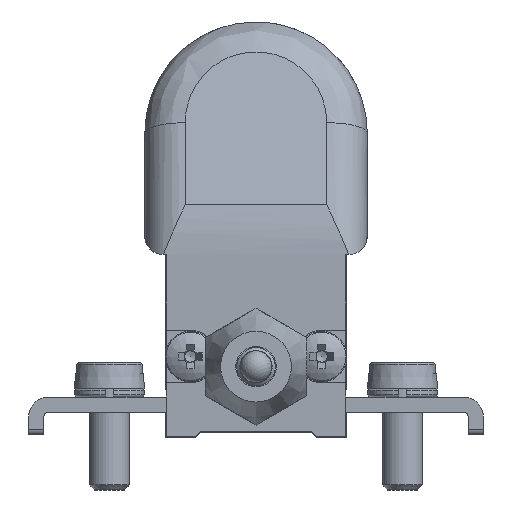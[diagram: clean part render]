
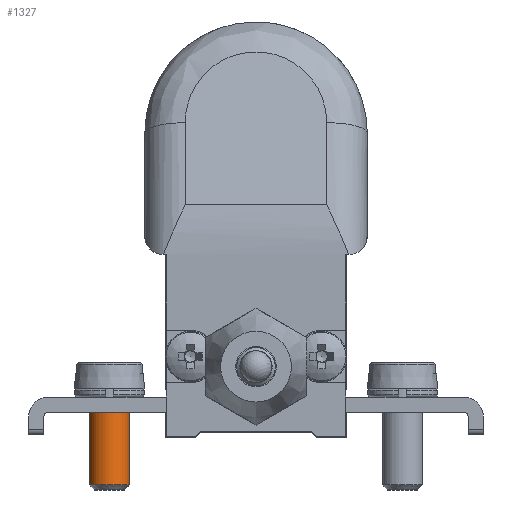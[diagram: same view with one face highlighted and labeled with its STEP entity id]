
A CAD part, front view. The second image highlights one B-rep face of the part: STEP entity #1327.
In plain terms, the highlighted cylindrical face has radius 2 mm (diameter 4 mm), a full revolution.
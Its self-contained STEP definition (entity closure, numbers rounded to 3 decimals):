
#1327 = ADVANCED_FACE( '', ( #2805, #2806 ), #2807, .T. );
#2805 = FACE_OUTER_BOUND( '', #5296, .T. );
#2806 = FACE_OUTER_BOUND( '', #5297, .T. );
#2807 = CYLINDRICAL_SURFACE( '', #5298, 2. );
#5296 = EDGE_LOOP( '', ( #9305 ) );
#5297 = EDGE_LOOP( '', ( #9306 ) );
#5298 = AXIS2_PLACEMENT_3D( '', #9307, #9308, #9309 );
#9305 = ORIENTED_EDGE( '', *, *, #10625, .T. );
#9306 = ORIENTED_EDGE( '', *, *, #10729, .T. );
#9307 = CARTESIAN_POINT( '', ( -14.5, 11., 32.8 ) );
#9308 = DIRECTION( '', ( 0., 0., -1. ) );
#9309 = DIRECTION( '', ( 1., 0., 0. ) );
#10625 = EDGE_CURVE( '', #13351, #13351, #13352, .F. );
#10729 = EDGE_CURVE( '', #13530, #13530, #13531, .T. );
#13351 = VERTEX_POINT( '', #18099 );
#13352 = CIRCLE( '', #18100, 2. );
#13530 = VERTEX_POINT( '', #18553 );
#13531 = CIRCLE( '', #18554, 2. );
#18099 = CARTESIAN_POINT( '', ( -16.5, 11., -4.7 ) );
#18100 = AXIS2_PLACEMENT_3D( '', #24894, #24895, #24896 );
#18553 = CARTESIAN_POINT( '', ( -12.5, 11., 3.8 ) );
#18554 = AXIS2_PLACEMENT_3D( '', #25014, #25015, #25016 );
#24894 = CARTESIAN_POINT( '', ( -14.5, 11., -4.7 ) );
#24895 = DIRECTION( '', ( 0., 0., -1. ) );
#24896 = DIRECTION( '', ( -1., 0., 0. ) );
#25014 = CARTESIAN_POINT( '', ( -14.5, 11., 3.8 ) );
#25015 = DIRECTION( '', ( 0., 0., -1. ) );
#25016 = DIRECTION( '', ( 1., 0., 0. ) );
